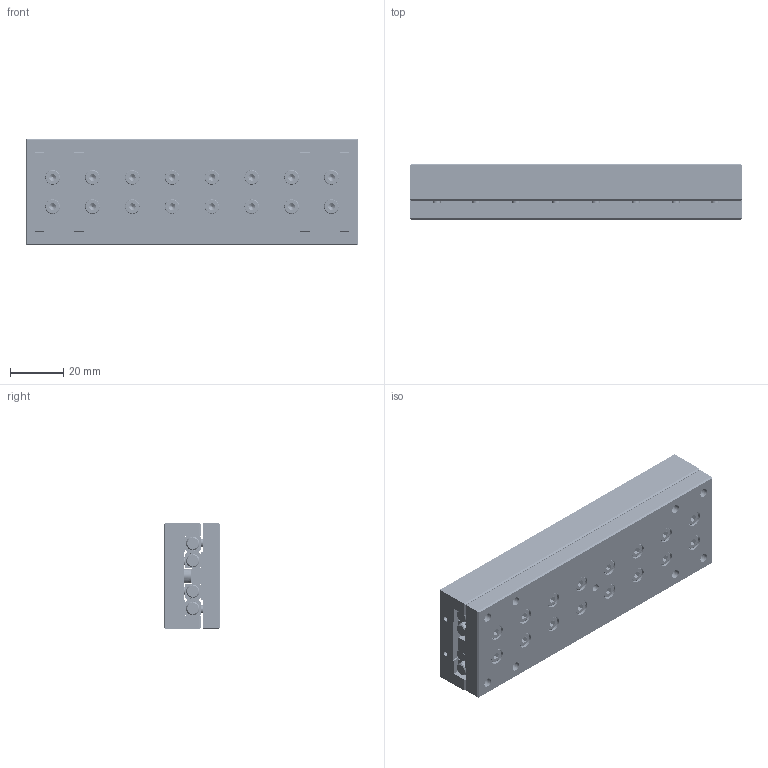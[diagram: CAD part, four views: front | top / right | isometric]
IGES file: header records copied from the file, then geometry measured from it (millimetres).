
Start section: SolidWorks IGES file using analytic representation for surfaces
Global section: file name: C:\Documents and Settings\IanO.IANOHOME\My Documents\Wix and Auto CAD Work\CAD Models\Parametric Models\Auto Models\L1020\L1020_IGES\L1020.040-125.igs; native system: SolidWorks 2009; preprocessor: SolidWorks 2009; author: IanO; date: 110922.162426; units: millimetre
Bounding box: 125 x 21 x 40 mm (x, y, z)
Surface area: 56384.8 mm2 (no closed solid volume)
Topology: 0 solids, 0 shells, 2189 faces, 28812 edges, 28732 vertices
Faces by surface type: bspline 1341, revolution 848
